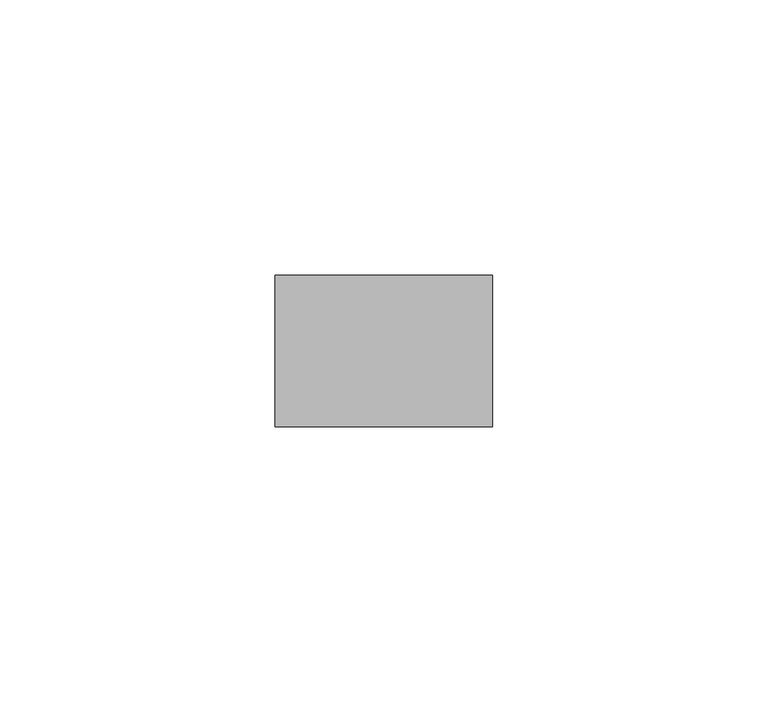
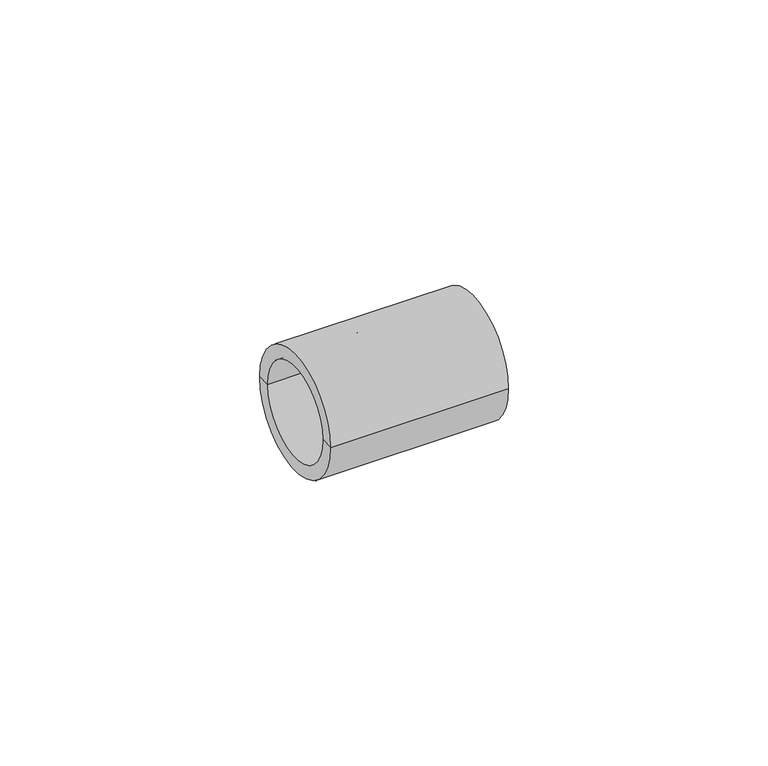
"""IFC4 building model written with IfcOpenShell, lengths in millimetres: cable carrier fitting geometry, AmancoWavin_Unionesdetubería_ConduitCople : Pesado."""

from ifc_helpers import new_model, si_unit, frame, origin, place, context, project, spatial, polyline, circle_curve, source, transform, mapped, element, save
from ifc_brep_helpers import plane_surface, cylinder_surface, revolved_surface, advanced_brep


def cable_carrier_fitting_7d2375e2(model_context):
    return source(origin(), model_context, "Body", "AdvancedBrep", [
        advanced_brep(
        [(-2.25, 0.0, 0.0), (-2.25, 10.75, 0.0), (-2.25, -10.75, 0.0), (2.25, -10.75, 0.0), (2.25, 10.75, 0.0), (2.25, 0.0, 0.0), (19.75, -10.75, 0.0), (19.75, 10.75, 0.0), (19.75, -13.75, 0.0), (19.75, 13.75, 0.0), (-19.75, -13.75, 0.0), (-19.75, 13.75, 0.0), (-19.75, -10.75, 0.0), (-19.75, 10.75, 0.0)],
        [
            (0, 1),
            (1, 2, circle_curve(frame((-2.25, 0.0, 0.0), z_axis=(-1.0, 0.0, 0.0), x_axis=(0.0, 1.0, 0.0)), 10.75)),
            (2, 0),
            (2, 1, circle_curve(frame((-2.25, 0.0, 0.0), z_axis=(-1.0, 0.0, 0.0), x_axis=(0.0, 1.0, 0.0)), 10.75)),
            (3, 4, circle_curve(frame((2.25, 0.0, 0.0), z_axis=(1.0, 0.0, 0.0), x_axis=(0.0, 1.0, 0.0)), 10.75)),
            (4, 5),
            (5, 3),
            (4, 3, circle_curve(frame((2.25, 0.0, 0.0), z_axis=(1.0, 0.0, 0.0), x_axis=(0.0, 1.0, 0.0)), 10.75)),
            (6, 7, circle_curve(frame((19.75, 0.0, 0.0), z_axis=(1.0, 0.0, 0.0), x_axis=(0.0, 1.0, 0.0)), 10.75)),
            (7, 4),
            (3, 6),
            (7, 6, circle_curve(frame((19.75, 0.0, 0.0), z_axis=(1.0, 0.0, 0.0), x_axis=(0.0, 1.0, 0.0)), 10.75)),
            (8, 9, circle_curve(frame((19.75, 0.0, 0.0), z_axis=(1.0, 0.0, 0.0), x_axis=(0.0, 1.0, 0.0)), 13.75)),
            (9, 7),
            (6, 8),
            (9, 8, circle_curve(frame((19.75, 0.0, 0.0), z_axis=(1.0, 0.0, 0.0), x_axis=(0.0, 1.0, 0.0)), 13.75)),
            (10, 11, circle_curve(frame((-19.75, 0.0, 0.0), z_axis=(1.0, 0.0, 0.0), x_axis=(0.0, 1.0, 0.0)), 13.75)),
            (11, 9),
            (8, 10),
            (11, 10, circle_curve(frame((-19.75, 0.0, 0.0), z_axis=(1.0, 0.0, 0.0), x_axis=(0.0, 1.0, 0.0)), 13.75)),
            (12, 13, circle_curve(frame((-19.75, 0.0, 0.0), z_axis=(1.0, 0.0, 0.0), x_axis=(0.0, 1.0, 0.0)), 10.75)),
            (13, 11),
            (10, 12),
            (13, 12, circle_curve(frame((-19.75, 0.0, 0.0), z_axis=(1.0, 0.0, 0.0), x_axis=(0.0, 1.0, 0.0)), 10.75)),
            (1, 13),
            (12, 2),
        ],
        [
            plane_surface(frame((-2.25, 0.0, 0.0), z_axis=(-1.0, 0.0, 0.0), x_axis=(0.0, 1.0, 0.0))),
            plane_surface(frame((2.25, 0.0, 0.0), z_axis=(1.0, 0.0, 0.0), x_axis=(0.0, 1.0, 0.0))),
            revolved_surface(polyline([(2.25, 10.75, 0.0), (19.75, 10.75, 0.0)]), (1999.11, 0.0, 0.0), (-1.0, 0.0, 0.0)),
            plane_surface(frame((19.75, 0.0, 0.0), z_axis=(1.0, 0.0, 0.0), x_axis=(0.0, 1.0, 0.0))),
            cylinder_surface(frame((1999.11, 0.0, 0.0), z_axis=(-1.0, 0.0, 0.0), x_axis=(0.0, 1.0, 0.0)), 13.75),
            plane_surface(frame((-19.75, 0.0, 0.0), z_axis=(-1.0, 0.0, 0.0), x_axis=(0.0, 1.0, 0.0))),
            revolved_surface(polyline([(-19.75, 10.75, 0.0), (-2.25, 10.75, 0.0)]), (1999.11, 0.0, 0.0), (-1.0, 0.0, 0.0)),
        ],
        [
            (0, [[1, 2, 3]]),
            (0, [[-3, 4, -1]]),
            (1, [[5, 6, 7]]),
            (1, [[8, -7, -6]]),
            (2, [[9, 10, -5, 11]]),
            (2, [[12, -11, -8, -10]]),
            (3, [[13, 14, -9, 15]]),
            (3, [[16, -15, -12, -14]]),
            (4, [[17, 18, -13, 19]]),
            (4, [[20, -19, -16, -18]]),
            (5, [[21, 22, -17, 23]]),
            (5, [[24, -23, -20, -22]]),
            (6, [[-2, 25, -21, 26]]),
            (6, [[-4, -26, -24, -25]]),
        ],
    ),
    ])


if __name__ == "__main__":
    model = new_model("IFC4")
    model_context = context("Model", 3, world=origin())
    ifc_project = project(units=[si_unit("LENGTHUNIT", "METRE", prefix="MILLI")], contexts=[model_context])
    site = spatial("IfcSite", under=ifc_project)
    building = spatial("IfcBuilding", under=site)
    placement = place(None, origin())
    cable_carrier_fitting_shape = cable_carrier_fitting_7d2375e2(model_context)
    element("IfcCableCarrierFitting", 1, ObjectType="AmancoWavin_Unionesdetubería_ConduitCople : Pesado", at=placement, inside=building, context=model_context, shape_type="MappedRepresentation", body=[
        mapped(cable_carrier_fitting_shape, transform((0.0, 0.0, 0.0), x_axis=(1.0, 0.0, 0.0), y_axis=(0.0, 1.0, 0.0), z_axis=(0.0, 0.0, 1.0))),
    ])
    save(model, "model.ifc")
